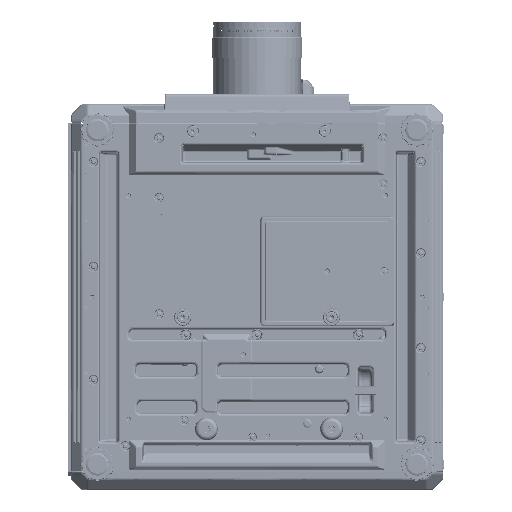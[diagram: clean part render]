
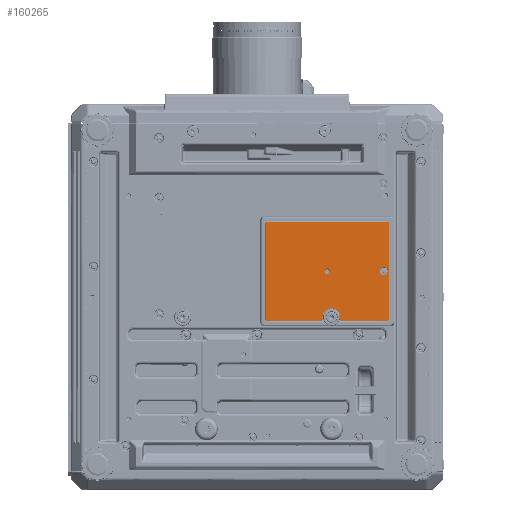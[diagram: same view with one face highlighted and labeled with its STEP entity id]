
A CAD part, front view. The second image highlights one B-rep face of the part: STEP entity #160265.
In plain terms, the highlighted planar face has unit normal (0, -1, 0).
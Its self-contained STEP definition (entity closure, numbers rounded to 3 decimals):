
#84400=ELLIPSE('',#352443,1.504,1.5);
#84401=ELLIPSE('',#352444,1.504,1.5);
#84402=ELLIPSE('',#352446,1.504,1.5);
#84403=ELLIPSE('',#352447,1.504,1.5);
#90078=PLANE('',#352448);
#113793=LINE('',#516706,#140335);
#113794=LINE('',#516711,#140336);
#113795=LINE('',#516715,#140337);
#113796=LINE('',#516759,#140338);
#113797=LINE('',#516763,#140339);
#140335=VECTOR('',#399560,1.);
#140336=VECTOR('',#399563,1.);
#140337=VECTOR('',#399566,1.);
#140338=VECTOR('',#399569,1.);
#140339=VECTOR('',#399572,1.);
#160265=ADVANCED_FACE('',(#172966,#172967,#172968),#90078,.F.);
#169153=B_SPLINE_CURVE_WITH_KNOTS('',3,(#516717,#516718,#516719,#516720,
#516721,#516722,#516723,#516724,#516725,#516726,#516727,#516728,#516729,
#516730,#516731,#516732,#516733,#516734,#516735),.UNSPECIFIED.,.F.,.F.,
(4,3,3,3,3,3,4),(0.,0.054,0.243,0.432,
0.621,0.811,1.),.UNSPECIFIED.);
#169154=B_SPLINE_CURVE_WITH_KNOTS('',3,(#516739,#516740,#516741,#516742,
#516743,#516744,#516745,#516746,#516747,#516748,#516749,#516750,#516751,
#516752,#516753,#516754,#516755,#516756,#516757),.UNSPECIFIED.,.F.,.F.,
(4,3,3,3,3,3,4),(0.,0.054,0.243,0.432,
0.621,0.811,1.),.UNSPECIFIED.);
#172966=FACE_BOUND('',#179148,.T.);
#172967=FACE_BOUND('',#179149,.T.);
#172968=FACE_BOUND('',#179150,.T.);
#179148=EDGE_LOOP('',(#210271));
#179149=EDGE_LOOP('',(#210272));
#179150=EDGE_LOOP('',(#210273,#210274,#210275,#210276,#210277,#210278,#210279,
#210280,#210281,#210282,#210283,#210284));
#210271=ORIENTED_EDGE('',*,*,#303925,.T.);
#210272=ORIENTED_EDGE('',*,*,#303926,.T.);
#210273=ORIENTED_EDGE('',*,*,#303927,.T.);
#210274=ORIENTED_EDGE('',*,*,#303928,.T.);
#210275=ORIENTED_EDGE('',*,*,#303929,.T.);
#210276=ORIENTED_EDGE('',*,*,#303930,.T.);
#210277=ORIENTED_EDGE('',*,*,#303931,.T.);
#210278=ORIENTED_EDGE('',*,*,#303932,.T.);
#210279=ORIENTED_EDGE('',*,*,#303933,.T.);
#210280=ORIENTED_EDGE('',*,*,#303934,.T.);
#210281=ORIENTED_EDGE('',*,*,#303935,.T.);
#210282=ORIENTED_EDGE('',*,*,#303936,.T.);
#210283=ORIENTED_EDGE('',*,*,#303937,.T.);
#210284=ORIENTED_EDGE('',*,*,#303938,.T.);
#261389=VERTEX_POINT('',#516702);
#261390=VERTEX_POINT('',#516705);
#261391=VERTEX_POINT('',#516707);
#261392=VERTEX_POINT('',#516708);
#261393=VERTEX_POINT('',#516710);
#261394=VERTEX_POINT('',#516712);
#261395=VERTEX_POINT('',#516714);
#261396=VERTEX_POINT('',#516716);
#261397=VERTEX_POINT('',#516736);
#261398=VERTEX_POINT('',#516738);
#261399=VERTEX_POINT('',#516758);
#261400=VERTEX_POINT('',#516760);
#261401=VERTEX_POINT('',#516762);
#261402=VERTEX_POINT('',#516764);
#303925=EDGE_CURVE('',#261389,#261389,#336404,.T.);
#303926=EDGE_CURVE('',#261390,#261390,#336405,.T.);
#303927=EDGE_CURVE('',#261391,#261392,#113793,.T.);
#303928=EDGE_CURVE('',#261392,#261393,#84400,.T.);
#303929=EDGE_CURVE('',#261393,#261394,#113794,.T.);
#303930=EDGE_CURVE('',#261394,#261395,#84401,.T.);
#303931=EDGE_CURVE('',#261395,#261396,#113795,.T.);
#303932=EDGE_CURVE('',#261396,#261397,#169153,.T.);
#303933=EDGE_CURVE('',#261397,#261398,#336406,.T.);
#303934=EDGE_CURVE('',#261398,#261399,#169154,.T.);
#303935=EDGE_CURVE('',#261399,#261400,#113796,.T.);
#303936=EDGE_CURVE('',#261400,#261401,#84402,.T.);
#303937=EDGE_CURVE('',#261401,#261402,#113797,.T.);
#303938=EDGE_CURVE('',#261402,#261391,#84403,.T.);
#336404=CIRCLE('',#352440,4.);
#336405=CIRCLE('',#352442,6.125);
#336406=CIRCLE('',#352445,13.358);
#352440=AXIS2_PLACEMENT_3D('',#516701,#399554,#399555);
#352442=AXIS2_PLACEMENT_3D('',#516704,#399558,#399559);
#352443=AXIS2_PLACEMENT_3D('',#516709,#399561,#399562);
#352444=AXIS2_PLACEMENT_3D('',#516713,#399564,#399565);
#352445=AXIS2_PLACEMENT_3D('',#516737,#399567,#399568);
#352446=AXIS2_PLACEMENT_3D('',#516761,#399570,#399571);
#352447=AXIS2_PLACEMENT_3D('',#516765,#399573,#399574);
#352448=AXIS2_PLACEMENT_3D('',#516766,#399575,#399576);
#399554=DIRECTION('',(0.,1.,0.));
#399555=DIRECTION('',(0.,0.,1.));
#399558=DIRECTION('',(0.,1.,0.));
#399559=DIRECTION('',(0.,0.,1.));
#399560=DIRECTION('',(-1.,0.,0.));
#399561=DIRECTION('',(0.,-1.,0.));
#399562=DIRECTION('',(0.707,0.,-0.707));
#399563=DIRECTION('',(0.,0.,-1.));
#399564=DIRECTION('',(0.,-1.,0.));
#399565=DIRECTION('',(-0.707,0.,-0.707));
#399566=DIRECTION('',(1.,0.,0.));
#399567=DIRECTION('',(0.,1.,0.));
#399568=DIRECTION('',(0.,0.,1.));
#399569=DIRECTION('',(1.,0.,0.));
#399570=DIRECTION('',(0.,-1.,0.));
#399571=DIRECTION('',(-0.707,0.,0.707));
#399572=DIRECTION('',(0.,0.,1.));
#399573=DIRECTION('',(0.,-1.,0.));
#399574=DIRECTION('',(-0.707,0.,-0.707));
#399575=DIRECTION('',(0.,1.,0.));
#399576=DIRECTION('',(0.,0.,1.));
#516701=CARTESIAN_POINT('',(103.8,-116.5,-1.5));
#516702=CARTESIAN_POINT('',(103.8,-116.5,2.5));
#516704=CARTESIAN_POINT('',(187.8,-116.5,-1.5));
#516705=CARTESIAN_POINT('',(187.8,-116.5,4.625));
#516706=CARTESIAN_POINT('',(110.,-116.5,71.642));
#516707=CARTESIAN_POINT('',(193.644,-116.5,71.642));
#516708=CARTESIAN_POINT('',(14.356,-116.5,71.642));
#516709=CARTESIAN_POINT('',(14.36,-116.5,70.14));
#516710=CARTESIAN_POINT('',(12.858,-116.5,70.144));
#516711=CARTESIAN_POINT('',(12.858,-116.5,-70.));
#516712=CARTESIAN_POINT('',(12.858,-116.5,-73.144));
#516713=CARTESIAN_POINT('',(14.36,-116.5,-73.14));
#516714=CARTESIAN_POINT('',(14.356,-116.5,-74.642));
#516715=CARTESIAN_POINT('',(110.,-116.5,-74.642));
#516716=CARTESIAN_POINT('',(95.481,-116.5,-74.642));
#516717=CARTESIAN_POINT('',(95.481,-116.5,-74.642));
#516718=CARTESIAN_POINT('',(95.529,-116.5,-74.642));
#516719=CARTESIAN_POINT('',(95.578,-116.5,-74.64));
#516720=CARTESIAN_POINT('',(95.627,-116.5,-74.635));
#516721=CARTESIAN_POINT('',(95.794,-116.5,-74.619));
#516722=CARTESIAN_POINT('',(95.96,-116.5,-74.574));
#516723=CARTESIAN_POINT('',(96.112,-116.5,-74.503));
#516724=CARTESIAN_POINT('',(96.264,-116.5,-74.433));
#516725=CARTESIAN_POINT('',(96.405,-116.5,-74.335));
#516726=CARTESIAN_POINT('',(96.525,-116.5,-74.219));
#516727=CARTESIAN_POINT('',(96.645,-116.5,-74.102));
#516728=CARTESIAN_POINT('',(96.747,-116.5,-73.963));
#516729=CARTESIAN_POINT('',(96.822,-116.5,-73.813));
#516730=CARTESIAN_POINT('',(96.897,-116.5,-73.662));
#516731=CARTESIAN_POINT('',(96.947,-116.5,-73.497));
#516732=CARTESIAN_POINT('',(96.967,-116.5,-73.33));
#516733=CARTESIAN_POINT('',(96.988,-116.5,-73.164));
#516734=CARTESIAN_POINT('',(96.98,-116.5,-72.991));
#516735=CARTESIAN_POINT('',(96.945,-116.5,-72.827));
#516736=CARTESIAN_POINT('',(96.945,-116.5,-72.827));
#516737=CARTESIAN_POINT('',(110.,-116.5,-70.));
#516738=CARTESIAN_POINT('',(123.055,-116.5,-72.827));
#516739=CARTESIAN_POINT('',(123.055,-116.5,-72.827));
#516740=CARTESIAN_POINT('',(123.045,-116.5,-72.875));
#516741=CARTESIAN_POINT('',(123.037,-116.5,-72.923));
#516742=CARTESIAN_POINT('',(123.031,-116.5,-72.972));
#516743=CARTESIAN_POINT('',(123.012,-116.5,-73.138));
#516744=CARTESIAN_POINT('',(123.021,-116.5,-73.31));
#516745=CARTESIAN_POINT('',(123.058,-116.5,-73.473));
#516746=CARTESIAN_POINT('',(123.094,-116.5,-73.637));
#516747=CARTESIAN_POINT('',(123.159,-116.5,-73.796));
#516748=CARTESIAN_POINT('',(123.248,-116.5,-73.938));
#516749=CARTESIAN_POINT('',(123.337,-116.5,-74.08));
#516750=CARTESIAN_POINT('',(123.451,-116.5,-74.209));
#516751=CARTESIAN_POINT('',(123.582,-116.5,-74.313));
#516752=CARTESIAN_POINT('',(123.713,-116.5,-74.418));
#516753=CARTESIAN_POINT('',(123.864,-116.5,-74.502));
#516754=CARTESIAN_POINT('',(124.023,-116.5,-74.558));
#516755=CARTESIAN_POINT('',(124.181,-116.5,-74.613));
#516756=CARTESIAN_POINT('',(124.351,-116.5,-74.642));
#516757=CARTESIAN_POINT('',(124.519,-116.5,-74.642));
#516758=CARTESIAN_POINT('',(124.519,-116.5,-74.642));
#516759=CARTESIAN_POINT('',(110.,-116.5,-74.642));
#516760=CARTESIAN_POINT('',(193.644,-116.5,-74.642));
#516761=CARTESIAN_POINT('',(193.64,-116.5,-73.14));
#516762=CARTESIAN_POINT('',(195.142,-116.5,-73.144));
#516763=CARTESIAN_POINT('',(195.142,-116.5,-70.));
#516764=CARTESIAN_POINT('',(195.142,-116.5,70.144));
#516765=CARTESIAN_POINT('',(193.64,-116.5,70.14));
#516766=CARTESIAN_POINT('',(110.,-116.5,-70.));
